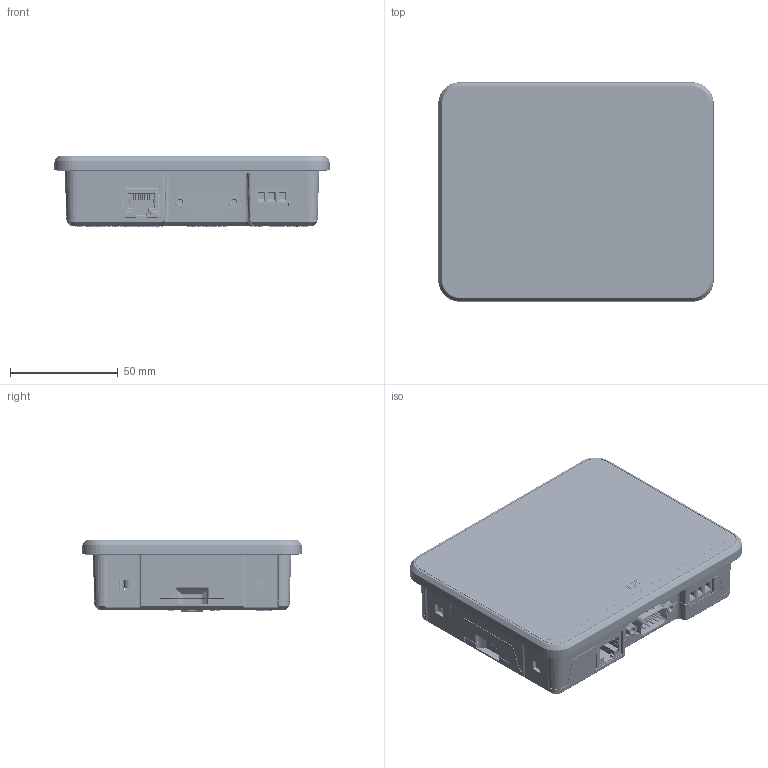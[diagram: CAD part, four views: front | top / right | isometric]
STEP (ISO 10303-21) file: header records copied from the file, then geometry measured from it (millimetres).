
FILE_DESCRIPTION((''),'2;1');
FILE_NAME('EXP20','2016-08-17T',('jwkwack'),(''),'PRO/ENGINEER BY PARAMETRIC TECHNOLOGY CORPORATION, 2013240','PRO/ENGINEER BY PARAMETRIC TECHNOLOGY CORPORATION, 2013240','');
FILE_SCHEMA(('CONFIG_CONTROL_DESIGN'));
Products named in the file (1): EXP20
Bounding box: 128 x 102 x 33.15 mm (x, y, z)
Surface area: 181622.7 mm2 (no closed solid volume)
Topology: 0 solids, 164 shells, 11083 faces, 35591 edges, 24727 vertices
Faces by surface type: plane 6213, cylinder 1904, extrusion 1592, bspline 408, cone 406, torus 391, sphere 129, revolution 40
Entity records: 428663 total; most frequent: CARTESIAN_POINT 125052, ORIENTED_EDGE 64826, DIRECTION 54717, EDGE_CURVE 35341, VECTOR 27177, LINE 25585, VERTEX_POINT 24715, AXIS2_PLACEMENT_3D 13750
